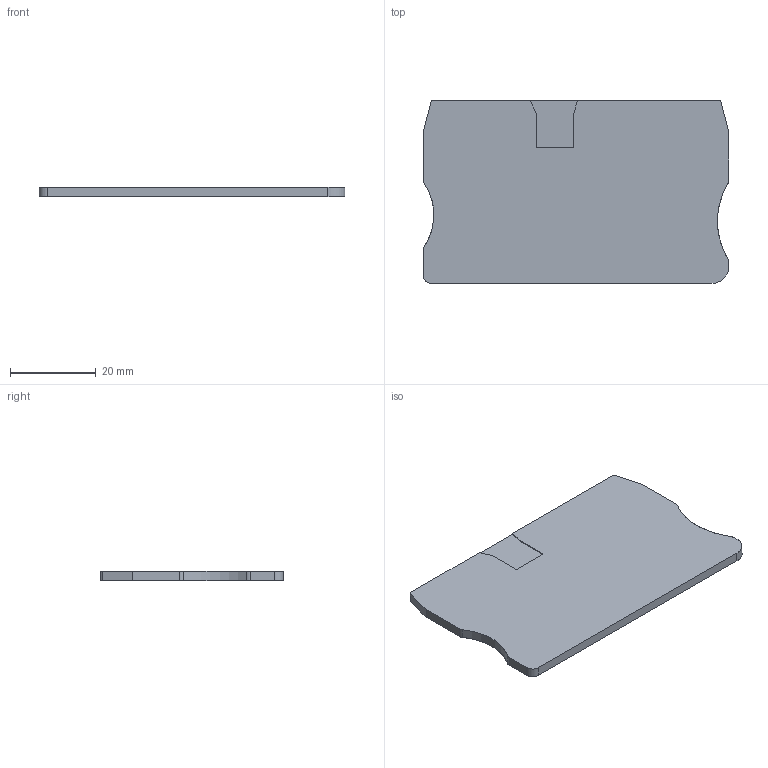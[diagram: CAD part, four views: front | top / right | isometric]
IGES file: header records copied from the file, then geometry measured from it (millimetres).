
Global section: file name: 3036644_d_st10.igs; native system: OneSpace Designer 3D IGES; preprocessor: 11.50A  18-Jul-2002; date: 20040203.144716; units: millimetre
Bounding box: 71.34 x 42.61 x 2.2 mm (x, y, z)
Surface area: 6432.7 mm2 (no closed solid volume)
Topology: 0 solids, 0 shells, 36 faces, 292 edges, 292 vertices
Faces by surface type: bspline 36
